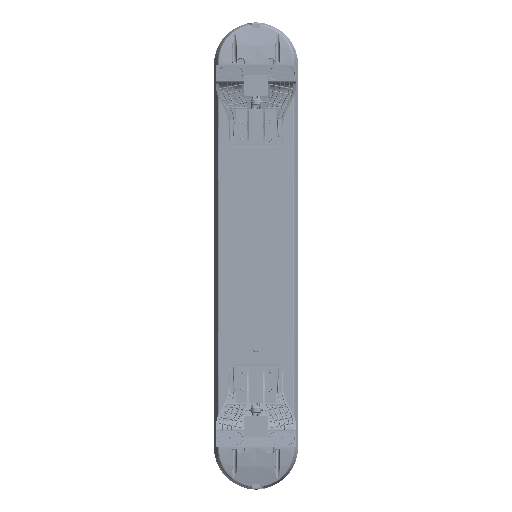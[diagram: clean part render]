
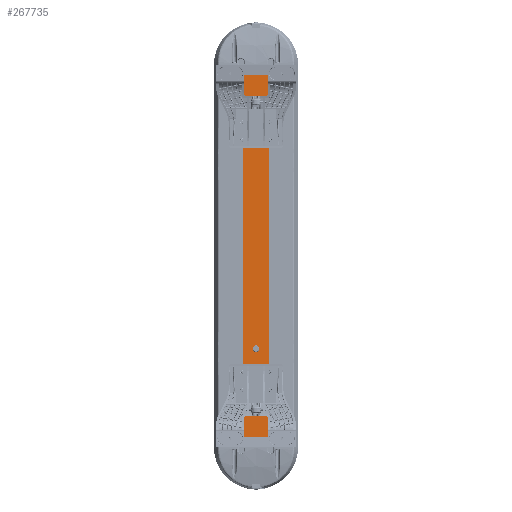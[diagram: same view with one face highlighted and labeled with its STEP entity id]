
A CAD part, front view. The second image highlights one B-rep face of the part: STEP entity #267735.
In plain terms, the highlighted planar face has unit normal (0, -1, 0).
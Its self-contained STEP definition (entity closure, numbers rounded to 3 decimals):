
#265276=DIRECTION('',(1.,0.,0.));
#265277=VECTOR('',#265276,65.8);
#265278=CARTESIAN_POINT('',(-32.9,-22.31,471.));
#265279=LINE('',#265278,#265277);
#265824=CARTESIAN_POINT('',(0.,-22.31,-253.5));
#265825=DIRECTION('',(0.,1.,0.));
#265826=DIRECTION('',(0.,0.,1.));
#265827=AXIS2_PLACEMENT_3D('',#265824,#265825,#265826);
#265829=CARTESIAN_POINT('',(0.,-22.31,-253.5));
#265830=DIRECTION('',(0.,1.,0.));
#265831=DIRECTION('',(0.,0.,-1.));
#265832=AXIS2_PLACEMENT_3D('',#265829,#265830,#265831);
#265834=DIRECTION('',(0.,0.,1.));
#265835=VECTOR('',#265834,976.);
#265836=CARTESIAN_POINT('',(32.9,-22.31,-505.));
#265837=LINE('',#265836,#265835);
#265838=DIRECTION('',(1.,0.,0.));
#265839=VECTOR('',#265838,65.8);
#265840=CARTESIAN_POINT('',(-32.9,-22.31,-505.));
#265841=LINE('',#265840,#265839);
#265842=DIRECTION('',(0.,0.,-1.));
#265843=VECTOR('',#265842,976.);
#265844=CARTESIAN_POINT('',(-32.9,-22.31,471.));
#265845=LINE('',#265844,#265843);
#266501=CARTESIAN_POINT('',(32.9,-22.31,-505.));
#266502=VERTEX_POINT('',#266501);
#266503=CARTESIAN_POINT('',(-32.9,-22.31,-505.));
#266504=VERTEX_POINT('',#266503);
#266715=CARTESIAN_POINT('',(32.9,-22.31,471.));
#266716=VERTEX_POINT('',#266715);
#266717=CARTESIAN_POINT('',(-32.9,-22.31,471.));
#266718=VERTEX_POINT('',#266717);
#266907=CARTESIAN_POINT('',(0.,-22.31,-261.));
#266909=VERTEX_POINT('',#266907);
#266911=CARTESIAN_POINT('',(0.,-22.31,-246.));
#266913=VERTEX_POINT('',#266911);
#267717=CARTESIAN_POINT('',(-34.,-22.31,-505.));
#267718=DIRECTION('',(0.,-1.,0.));
#267719=DIRECTION('',(1.,0.,0.));
#267720=AXIS2_PLACEMENT_3D('',#267717,#267718,#267719);
#267721=PLANE('',#267720);
#267722=ORIENTED_EDGE('',*,*,#267711,.F.);
#267723=ORIENTED_EDGE('',*,*,#267152,.F.);
#267725=ORIENTED_EDGE('',*,*,#267724,.F.);
#267726=ORIENTED_EDGE('',*,*,#267257,.T.);
#267727=EDGE_LOOP('',(#267722,#267723,#267725,#267726));
#267728=FACE_OUTER_BOUND('',#267727,.F.);
#267730=ORIENTED_EDGE('',*,*,#267729,.F.);
#267732=ORIENTED_EDGE('',*,*,#267731,.F.);
#267733=EDGE_LOOP('',(#267730,#267732));
#267734=FACE_BOUND('',#267733,.F.);
#267735=ADVANCED_FACE('',(#267728,#267734),#267721,.T.);
#265828=CIRCLE('',#265827,7.5);
#265833=CIRCLE('',#265832,7.5);
#267152=EDGE_CURVE('',#266504,#266502,#265841,.T.);
#267257=EDGE_CURVE('',#266718,#266716,#265279,.T.);
#267711=EDGE_CURVE('',#266502,#266716,#265837,.T.);
#267724=EDGE_CURVE('',#266718,#266504,#265845,.T.);
#267729=EDGE_CURVE('',#266913,#266909,#265828,.T.);
#267731=EDGE_CURVE('',#266909,#266913,#265833,.T.);
